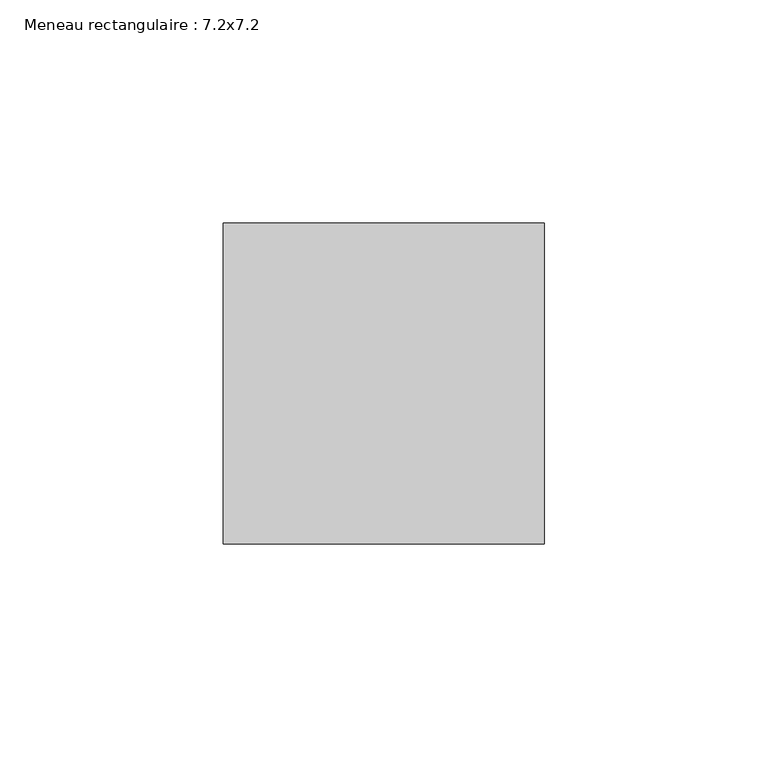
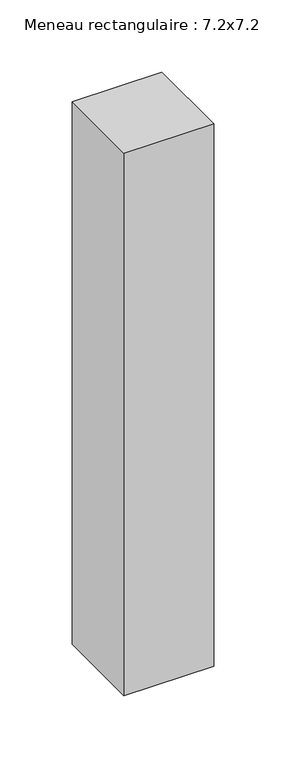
"""IFC4 building model written with IfcOpenShell, lengths in millimetres: member geometry, Meneau rectangulaire : 7.2x7.2."""

from ifc_helpers import new_model, si_unit, frame, origin, place, context, project, spatial, polyline, outline, extrude, source, transform, mapped, element, save


def meneau_rectangulaire_7_2x7_2_e6bfd817(model_context):
    return source(origin(), model_context, "Body", "SweptSolid", [
        extrude(outline(polyline([(0.0, 36.0), (0.0, -36.0), (-72.0, -36.0), (-72.0, 36.0), (0.0, 36.0)])), frame((0.0, 0.0, -460.0), z_axis=(0.0, 0.0, 1.0), x_axis=(1.0, 0.0, 0.0)), (0.0, 0.0, 1.0), 460.0),
    ])


if __name__ == "__main__":
    model = new_model("IFC4")
    model_context = context("Model", 3, world=origin())
    ifc_project = project(units=[si_unit("LENGTHUNIT", "METRE", prefix="MILLI")], contexts=[model_context])
    site = spatial("IfcSite", under=ifc_project)
    building = spatial("IfcBuilding", under=site)
    placement = place(None, origin())
    meneau_rectangulaire_7_2x7_2_shape = meneau_rectangulaire_7_2x7_2_e6bfd817(model_context)
    element("IfcMember", 1, ObjectType="Meneau rectangulaire : 7.2x7.2", at=placement, inside=building, context=model_context, shape_type="MappedRepresentation", body=[
        mapped(meneau_rectangulaire_7_2x7_2_shape, transform((0.0, 0.0, 0.0), x_axis=(1.0, 0.0, 0.0), y_axis=(0.0, 1.0, 0.0), z_axis=(0.0, 0.0, 1.0))),
    ])
    save(model, "model.ifc")
